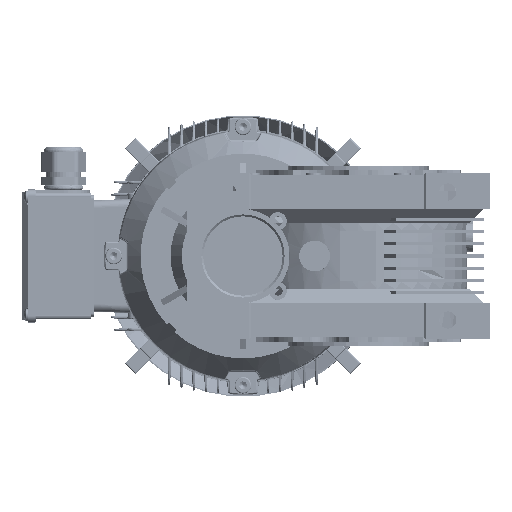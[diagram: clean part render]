
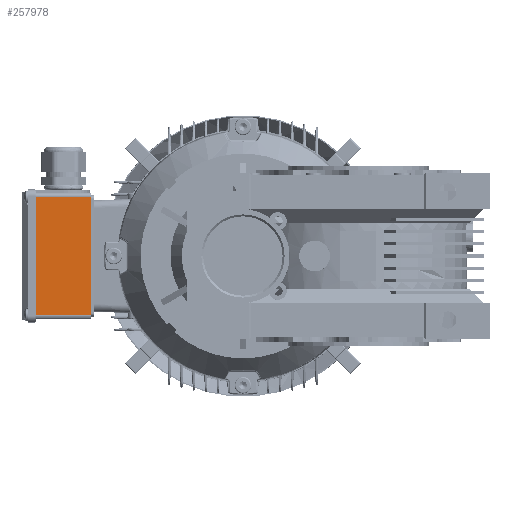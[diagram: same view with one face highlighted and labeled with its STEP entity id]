
A CAD part, left-side view. The second image highlights one B-rep face of the part: STEP entity #257978.
In plain terms, the highlighted planar face has unit normal (-1, 0, 0).
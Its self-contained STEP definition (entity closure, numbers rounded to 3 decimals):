
#1003 = CARTESIAN_POINT ( 'NONE',  ( -49.488, 0., -46.126 ) ) ;
#1011 = CARTESIAN_POINT ( 'NONE',  ( -49.488, 43., -46.126 ) ) ;
#1214 = VERTEX_POINT ( 'NONE', #16847 ) ;
#1238 = VERTEX_POINT ( 'NONE', #16808 ) ;
#8170 = VERTEX_POINT ( 'NONE', #1011 ) ;
#8190 = VERTEX_POINT ( 'NONE', #1003 ) ;
#16808 = CARTESIAN_POINT ( 'NONE',  ( -49.488, 43., 46.126 ) ) ;
#16847 = CARTESIAN_POINT ( 'NONE',  ( -49.488, 0., 46.126 ) ) ;
#43286 = LINE ( 'NONE', #46967, #43291 ) ;
#43291 = VECTOR ( 'NONE', #46966, 1000. ) ;
#44480 = LINE ( 'NONE', #68974, #44502 ) ;
#44490 = LINE ( 'NONE', #68937, #44494 ) ;
#44492 = LINE ( 'NONE', #69000, #44498 ) ;
#44494 = VECTOR ( 'NONE', #68947, 1000. ) ;
#44498 = VECTOR ( 'NONE', #69011, 1000. ) ;
#44502 = VECTOR ( 'NONE', #69016, 1000. ) ;
#46966 = DIRECTION ( 'NONE',  ( 0., 1., 0. ) ) ;
#46967 = CARTESIAN_POINT ( 'NONE',  ( -49.488, 47., -46.126 ) ) ;
#68937 = CARTESIAN_POINT ( 'NONE',  ( -49.488, 47., 46.126 ) ) ;
#68947 = DIRECTION ( 'NONE',  ( 0., -1., 0. ) ) ;
#68974 = CARTESIAN_POINT ( 'NONE',  ( -49.488, 43., -46.512 ) ) ;
#69000 = CARTESIAN_POINT ( 'NONE',  ( -49.488, 0., -46.512 ) ) ;
#69011 = DIRECTION ( 'NONE',  ( 0., 0., 1. ) ) ;
#69016 = DIRECTION ( 'NONE',  ( 0., 0., -1. ) ) ;
#142215 = EDGE_CURVE ( 'NONE', #8190, #8170, #43286, .T. ) ;
#143178 = EDGE_CURVE ( 'NONE', #1238, #1214, #44490, .T. ) ;
#143182 = EDGE_CURVE ( 'NONE', #8190, #1214, #44492, .T. ) ;
#143186 = EDGE_CURVE ( 'NONE', #1238, #8170, #44480, .T. ) ;
#201865 = ORIENTED_EDGE ( 'NONE', *, *, #142215, .F. ) ;
#201872 = ORIENTED_EDGE ( 'NONE', *, *, #143182, .T. ) ;
#201877 = ORIENTED_EDGE ( 'NONE', *, *, #143178, .F. ) ;
#201884 = ORIENTED_EDGE ( 'NONE', *, *, #143186, .T. ) ;
#232552 = EDGE_LOOP ( 'NONE', ( #201865, #201872, #201877, #201884 ) ) ;
#257978 = ADVANCED_FACE ( 'NONE', ( #271533 ), #269268, .F. ) ;
#262731 = AXIS2_PLACEMENT_3D ( 'NONE', #269249, #269275, #269278 ) ;
#269249 = CARTESIAN_POINT ( 'NONE',  ( -49.488, 47., 46.126 ) ) ;
#269268 = PLANE ( 'NONE',  #262731 ) ;
#269275 = DIRECTION ( 'NONE',  ( 1., 0., 0. ) ) ;
#269278 = DIRECTION ( 'NONE',  ( 0., 0., -1. ) ) ;
#271533 = FACE_OUTER_BOUND ( 'NONE', #232552, .T. ) ;
